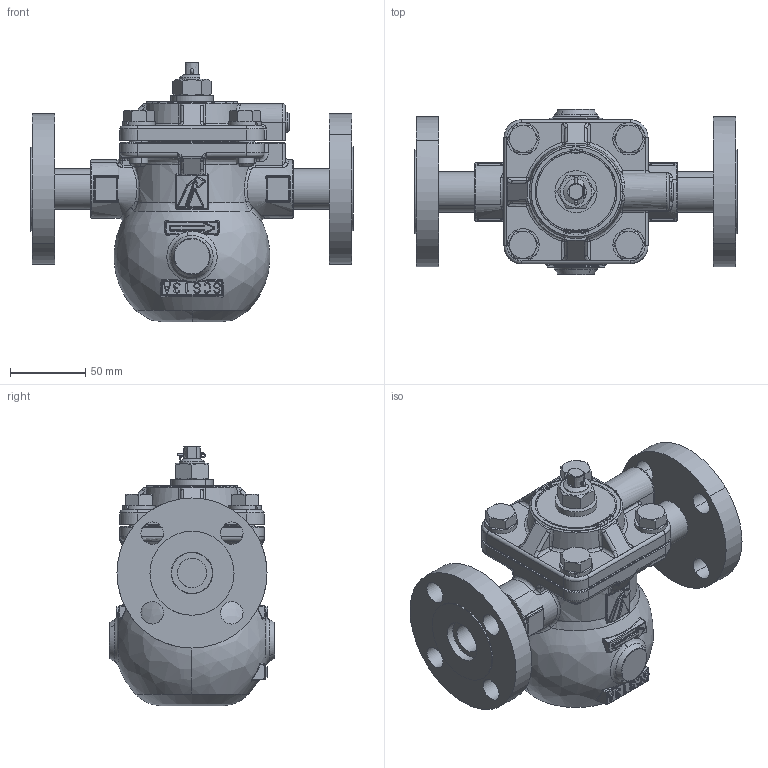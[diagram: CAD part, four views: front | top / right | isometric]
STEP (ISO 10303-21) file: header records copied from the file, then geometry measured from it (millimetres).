
FILE_DESCRIPTION((''),'2;1');
FILE_NAME('','2020-10-13T10:20:43',(''),(''),'','CADfix','');
FILE_SCHEMA(('AUTOMOTIVE_DESIGN { 1 0 10303 214 1 1 1 1 }'));
Length unit declared in the file: millimetre
Products named in the file (15): ふた 埋め; 　コック 埋め; 本体 20A SW 埋め; SOP 20K 20A; CP_SUS＿'_SUS304TP 20AxSch40x45.6; CP_'_JIS B 1180 呼び径六角ボルト'_17166; CP_'_JIS B 1180 呼び径六角ボルト'_17168; SSLW12; テーパプラグMSWTS2; 3D　TSF-10　割りピン; 3D　TSF-10　銘板文字; 3D　TSF-10　六角ナット; 3D　TSF-10　銘板; 3D　TSF-10　カラー; TSF-10SF JIS20K 20A_38
Assembly tree (21 placements, depth 2):
  TSF-10SF JIS20K 20A_38
    ふた 埋め
    　コック 埋め
    本体 20A SW 埋め
    SOP 20K 20A  x2
    CP_SUS＿'_SUS304TP 20AxSch40x45.6  x2
    CP_'_JIS B 1180 呼び径六角ボルト'_17166  x3
    CP_'_JIS B 1180 呼び径六角ボルト'_17168
    SSLW12  x4
    テーパプラグMSWTS2
    3D　TSF-10　割りピン
    3D　TSF-10　銘板文字
    3D　TSF-10　六角ナット
    3D　TSF-10　銘板
    3D　TSF-10　カラー
Bounding box: 215 x 110 x 173 mm (x, y, z)
Volume: 1261421.9 mm3; surface area: 173980 mm2
Topology: 21 solids, 21 shells, 1594 faces, 4444 edges, 2877 vertices
Faces by surface type: bspline 1594
Entity records: 72945 total; most frequent: CARTESIAN_POINT 43623, ORIENTED_EDGE 8166, STYLED_ITEM 4886, EDGE_CURVE 4083, VERTEX_POINT 2615, B_SPLINE_CURVE_WITH_KNOTS 1894, QUASI_UNIFORM_CURVE 1862, EDGE_LOOP 1574
